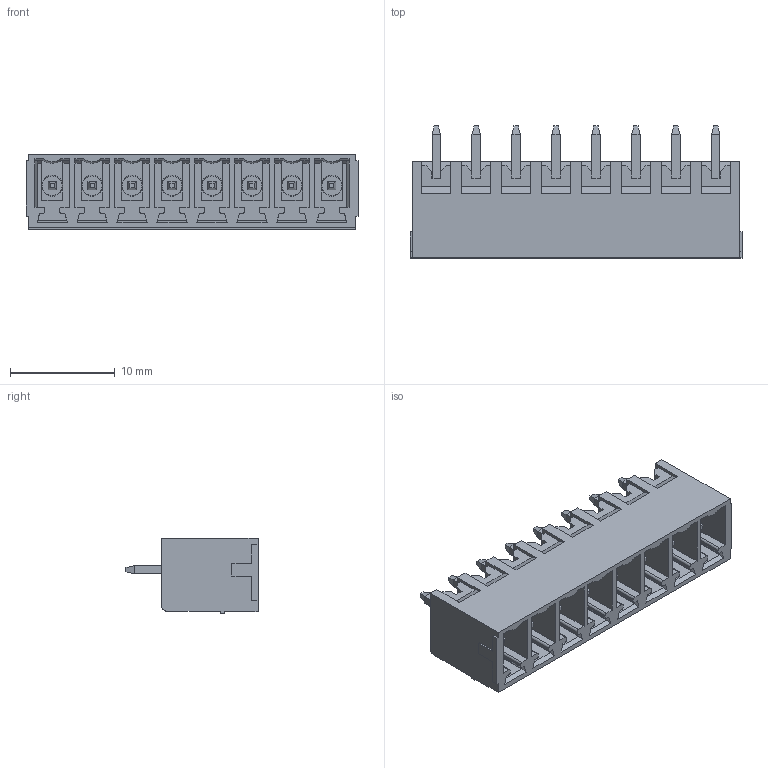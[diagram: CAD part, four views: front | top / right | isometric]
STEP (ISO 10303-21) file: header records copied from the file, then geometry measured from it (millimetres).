
FILE_DESCRIPTION(('FreeCAD Model'),'2;1');
FILE_NAME('Open CASCADE Shape Model','2023-05-24T15:57:10',('Author'),( ''),'Open CASCADE STEP processor 7.6','FreeCAD','Unknown');
FILE_SCHEMA(('AUTOMOTIVE_DESIGN { 1 0 10303 214 1 1 1 1 }'));
Length unit declared in the file: millimetre
Products named in the file (1): BR7MC2-08
Bounding box: 31.67 x 12.6 x 7.2 mm (x, y, z)
Volume: 960.5 mm3; surface area: 2893.1 mm2
Topology: 1 solids, 1 shells, 659 faces, 1755 edges, 1114 vertices
Faces by surface type: plane 578, cylinder 41, cone 24, sphere 16
Entity records: 43595 total; most frequent: CARTESIAN_POINT 8325, DIRECTION 6578, LINE 4861, VECTOR 4861, ORIENTED_EDGE 3478, PCURVE 3478, DEFINITIONAL_REPRESENTATION 3478, EDGE_CURVE 1739
